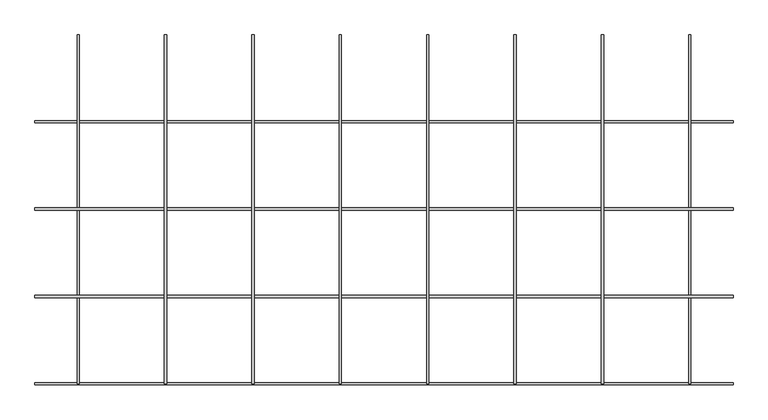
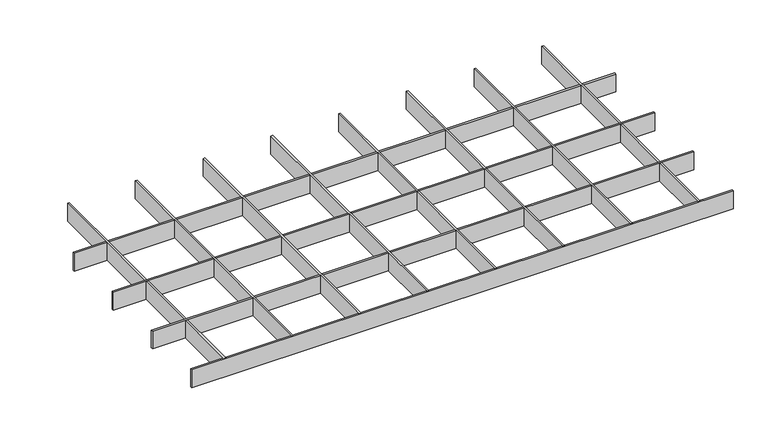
"""IFC4 building model written with IfcOpenShell, lengths in millimetres: proxy geometry, durlum_GEO_panel : durlum_GEO_4."""

import ifcopenshell
import ifcopenshell.guid

model = None  # the IFC model being written
_history = None  # IfcOwnerHistory: only IFC2X3 demands one
_inside = {}  # id of a spatial element -> (the spatial element, [elements in it])
_under = {}  # id of a project, library or spatial element -> (it, [spatial elements below it])
_declared = {}  # id of a project -> (the project, [libraries it declares])
_typed = {}  # id of a type object -> (the type object, [elements of that type])
_made_of = {}  # id of a material, layer set ... -> (it, [elements and type objects made of it])


def new_model(schema):
    """Start an empty IFC model of exactly this schema.

    Asked for "IFC4X3", IfcOpenShell would pick the latest addendum, in which some entities
    have other attributes; the version numbers below select the first issue.
    IFC2X3 requires an IfcOwnerHistory on every rooted entity: one is made here for all.
    """
    global model, _history
    if schema == "IFC4X3":
        model = ifcopenshell.file(schema_version=(4, 3, 0, 0))
    else:
        model = ifcopenshell.file(schema=schema)
    _inside.clear()
    _under.clear()
    _declared.clear()
    _typed.clear()
    _made_of.clear()
    _history = None
    if model.schema == "IFC2X3":
        org = make("IfcOrganization", Name="unknown")
        user = make(
            "IfcPersonAndOrganization",
            ThePerson=make("IfcPerson", FamilyName="unknown"),
            TheOrganization=org,
        )
        app = make(
            "IfcApplication",
            ApplicationDeveloper=org,
            Version="unknown",
            ApplicationFullName="unknown",
            ApplicationIdentifier="unknown",
        )
        _history = make(
            "IfcOwnerHistory",
            OwningUser=user,
            OwningApplication=app,
            ChangeAction="ADDED",
            CreationDate=0,
        )
    return model


def make(cls, **values):
    """One entity of the class cls with the attributes given. An attribute that is None is left unset."""
    return model.create_entity(
        cls, **{name: value for name, value in values.items() if value is not None}
    )


def rooted(cls, **values):
    """An entity with a GlobalId (a new one), such as an element, a storey or a relation."""
    return make(cls, GlobalId=ifcopenshell.guid.new(), OwnerHistory=_history, **values)


def si_unit(unit_type, name, prefix=None):
    """IfcSIUnit, for example si_unit("LENGTHUNIT", "METRE", prefix="MILLI")."""
    return make("IfcSIUnit", UnitType=unit_type, Prefix=prefix, Name=name)


def assignment(units):
    """IfcUnitAssignment: the units of a project."""
    return None if units is None else make("IfcUnitAssignment", Units=units)


def point(xyz):
    """IfcCartesianPoint."""
    return None if xyz is None else make("IfcCartesianPoint", Coordinates=xyz)


def direction(xyz):
    """IfcDirection."""
    return None if xyz is None else make("IfcDirection", DirectionRatios=xyz)


def frame(location, z_axis=None, x_axis=None):
    """IfcAxis2Placement3D, a coordinate frame: its origin and axes. An axis left out is left unset."""
    return make(
        "IfcAxis2Placement3D",
        Location=point(location),
        Axis=direction(z_axis),
        RefDirection=direction(x_axis),
    )


def origin():
    """The frame at (0, 0, 0) with its axes left unset."""
    return frame((0.0, 0.0, 0.0))


def origin_with_axes():
    """The frame at (0, 0, 0) with the z axis (0, 0, 1) and the x axis (1, 0, 0) written out."""
    return frame((0.0, 0.0, 0.0), z_axis=(0.0, 0.0, 1.0), x_axis=(1.0, 0.0, 0.0))


def place(relative_to, where):
    """IfcLocalPlacement: puts the frame where relative to a parent placement (None: the world)."""
    return make(
        "IfcLocalPlacement", PlacementRelTo=relative_to, RelativePlacement=where
    )


def context(
    kind, dimensions, precision=None, world=None, true_north=None, identifier=None
):
    """IfcGeometricRepresentationContext, for example the 3D "Model" context."""
    return make(
        "IfcGeometricRepresentationContext",
        ContextIdentifier=identifier,
        ContextType=kind,
        CoordinateSpaceDimension=dimensions,
        Precision=precision,
        WorldCoordinateSystem=world,
        TrueNorth=true_north,
    )


def project(units=None, contexts=None):
    """IfcProject with its units and contexts."""
    return rooted(
        "IfcProject",
        Name="project",
        RepresentationContexts=contexts,
        UnitsInContext=assignment(units),
    )


def spatial(cls, under=None, at=None, **own):
    """A site, building, storey or space (cls), placed at a placement, below another one or the project."""
    s = rooted(cls, ObjectPlacement=at, **own)
    if under is not None:
        _under.setdefault(under.id(), (under, []))[1].append(s)
    return s


def polyline(points):
    """IfcPolyline through the points."""
    return make("IfcPolyline", Points=[point(p) for p in points])


def outline(outer, holes=None, kind="AREA"):
    """IfcArbitraryClosedProfileDef: a profile drawn as a closed curve; with holes, ...WithVoids."""
    if holes is None:
        return make("IfcArbitraryClosedProfileDef", ProfileType=kind, OuterCurve=outer)
    return make(
        "IfcArbitraryProfileDefWithVoids",
        ProfileType=kind,
        OuterCurve=outer,
        InnerCurves=holes,
    )


def extrude(swept, where, along, depth):
    """IfcExtrudedAreaSolid: the profile swept, set in the frame where, extruded along a direction by depth."""
    return make(
        "IfcExtrudedAreaSolid",
        SweptArea=swept,
        Position=where,
        ExtrudedDirection=direction(along),
        Depth=depth,
    )


def shape(context_of_items, identifier, shape_type, items):
    """IfcShapeRepresentation: the items that make up one representation, for example the "Body"."""
    return make(
        "IfcShapeRepresentation",
        ContextOfItems=context_of_items,
        RepresentationIdentifier=identifier,
        RepresentationType=shape_type,
        Items=items,
    )


def source(mapping_origin, context_of_items, identifier, shape_type, items):
    """IfcRepresentationMap: a shape defined once, which mapped items show again and again."""
    return make(
        "IfcRepresentationMap",
        MappingOrigin=mapping_origin,
        MappedRepresentation=shape(context_of_items, identifier, shape_type, items),
    )


def transform(
    local_origin,
    x_axis=None,
    y_axis=None,
    z_axis=None,
    scale=None,
    scale2=None,
    scale3=None,
    uniform=True,
):
    """IfcCartesianTransformationOperator3D, or its non-uniform kind. x_axis, y_axis, z_axis: its Axis1, 2, 3."""
    if uniform:
        return make(
            "IfcCartesianTransformationOperator3D",
            Axis1=direction(x_axis),
            Axis2=direction(y_axis),
            LocalOrigin=point(local_origin),
            Scale=scale,
            Axis3=direction(z_axis),
        )
    return make(
        "IfcCartesianTransformationOperator3DnonUniform",
        Axis1=direction(x_axis),
        Axis2=direction(y_axis),
        LocalOrigin=point(local_origin),
        Scale=scale,
        Axis3=direction(z_axis),
        Scale2=scale2,
        Scale3=scale3,
    )


def mapped(mapping_source, mapping_target):
    """IfcMappedItem: shows the shape of a source again, moved by a transform."""
    return make(
        "IfcMappedItem", MappingSource=mapping_source, MappingTarget=mapping_target
    )


def made_of(thing, what):
    """Note that an element or type object is made of a material, layer set ...; save() writes the relation."""
    if what is not None:
        _made_of.setdefault(what.id(), (what, []))[1].append(thing)
    return thing


def element(
    cls,
    number,
    at=None,
    inside=None,
    cuts=None,
    type_object=None,
    material=None,
    context=None,
    identifier="Body",
    shape_type=None,
    held_by="IfcProductDefinitionShape",
    body=None,
    shapes=None,
    **own,
):
    """One element of the class cls, such as IfcWall. Its Tag is "e" and its number.

    at: its placement. inside: the storey or other place that contains it. cuts: it is an
    opening in that element (IfcRelVoidsElement). A single representation is given by context,
    identifier, shape_type and body (its items); several are given by shapes. held_by: the class
    of the entity that holds the representations. save() writes the other relations.
    """
    e = rooted(cls, Tag="e%d" % number, ObjectPlacement=at, **own)
    if body is not None:
        shapes = [shape(context, identifier, shape_type, body)]
    if shapes is not None:
        e.Representation = make(held_by, Representations=shapes)
    if inside is not None:
        _inside.setdefault(inside.id(), (inside, []))[1].append(e)
    if cuts is not None:
        rooted(
            "IfcRelVoidsElement", RelatingBuildingElement=cuts, RelatedOpeningElement=e
        )
    if type_object is not None:
        _typed.setdefault(type_object.id(), (type_object, []))[1].append(e)
    return made_of(e, material)


def aggregate(whole, parts):
    """IfcRelAggregates: a whole, such as a stair, and the parts it consists of."""
    return rooted("IfcRelAggregates", RelatingObject=whole, RelatedObjects=parts)


def save(model, path):
    """Write the relations noted so far, then the file.

    IfcRelAggregates (storeys below a building ...), IfcRelContainedInSpatialStructure (elements
    in a storey), IfcRelDefinesByType, IfcRelAssociatesMaterial and IfcRelDeclares: one each for
    every whole, place, type object, material and project.
    """
    for whole, parts in _under.values():
        aggregate(whole, parts)
    for where, things in _inside.values():
        rooted(
            "IfcRelContainedInSpatialStructure",
            RelatedElements=things,
            RelatingStructure=where,
        )
    for kind, things in _typed.values():
        rooted("IfcRelDefinesByType", RelatedObjects=things, RelatingType=kind)
    for what, things in _made_of.values():
        rooted("IfcRelAssociatesMaterial", RelatedObjects=things, RelatingMaterial=what)
    for by, libraries in _declared.values():
        rooted("IfcRelDeclares", RelatingContext=by, RelatedDefinitions=libraries)
    model.write(path)


def generic_models_5e62fee5(model_context):
    return source(origin(), model_context, "Body", "SweptSolid", [
        extrude(outline(polyline([(373.0, 299.5), (377.0, 299.5), (377.0, -299.5), (373.0, -299.5), (373.0, 299.5)])), origin_with_axes(), (0.0, 0.0, 1.0), 42.0),
        extrude(outline(polyline([(223.0, 299.5), (227.0, 299.5), (227.0, -299.5), (223.0, -299.5), (223.0, 299.5)])), origin_with_axes(), (0.0, 0.0, 1.0), 42.0),
        extrude(outline(polyline([(73.0, 299.5), (77.0, 299.5), (77.0, -299.5), (73.0, -299.5), (73.0, 299.5)])), origin_with_axes(), (0.0, 0.0, 1.0), 42.0),
        extrude(outline(polyline([(-77.0, 299.5), (-73.0, 299.5), (-73.0, -299.5), (-77.0, -299.5), (-77.0, 299.5)])), origin_with_axes(), (0.0, 0.0, 1.0), 42.0),
        extrude(outline(polyline([(-227.0, 299.5), (-223.0, 299.5), (-223.0, -299.5), (-227.0, -299.5), (-227.0, 299.5)])), origin_with_axes(), (0.0, 0.0, 1.0), 42.0),
        extrude(outline(polyline([(-377.0, 299.5), (-373.0, 299.5), (-373.0, -299.5), (-377.0, -299.5), (-377.0, 299.5)])), origin_with_axes(), (0.0, 0.0, 1.0), 42.0),
        extrude(outline(polyline([(599.5, -147.5), (599.5, -151.5), (-599.5, -151.5), (-599.5, -147.5), (599.5, -147.5)])), origin_with_axes(), (0.0, 0.0, 1.0), 42.0),
        extrude(outline(polyline([(599.5, 2.5), (599.5, -1.5), (-599.5, -1.5), (-599.5, 2.5), (599.5, 2.5)])), origin_with_axes(), (0.0, 0.0, 1.0), 42.0),
        extrude(outline(polyline([(523.0, 299.5), (527.0, 299.5), (527.0, -299.5), (523.0, -299.5), (523.0, 299.5)])), origin_with_axes(), (0.0, 0.0, 1.0), 42.0),
        extrude(outline(polyline([(-527.0, 299.5), (-523.0, 299.5), (-523.0, -299.5), (-527.0, -299.5), (-527.0, 299.5)])), origin_with_axes(), (0.0, 0.0, 1.0), 42.0),
        extrude(outline(polyline([(599.5, -297.5), (599.5, -301.5), (-599.5, -301.5), (-599.5, -297.5), (599.5, -297.5)])), origin_with_axes(), (0.0, 0.0, 1.0), 42.0),
        extrude(outline(polyline([(599.5, 152.5), (599.5, 148.5), (-599.5, 148.5), (-599.5, 152.5), (599.5, 152.5)])), origin_with_axes(), (0.0, 0.0, 1.0), 42.0),
    ])


if __name__ == "__main__":
    model = new_model("IFC4")
    model_context = context("Model", 3, world=origin())
    ifc_project = project(units=[si_unit("LENGTHUNIT", "METRE", prefix="MILLI")], contexts=[model_context])
    site = spatial("IfcSite", under=ifc_project)
    building = spatial("IfcBuilding", under=site)
    placement = place(None, origin())
    generic_models_shape = generic_models_5e62fee5(model_context)
    element("IfcBuildingElementProxy", 1, Name="durlum_GEO_panel : durlum_GEO_4", ObjectType="durlum_GEO_panel : durlum_GEO_4", at=placement, inside=building, context=model_context, shape_type="MappedRepresentation", body=[
        mapped(generic_models_shape, transform((0.0, 0.0, 0.0), x_axis=(1.0, 0.0, 0.0), y_axis=(0.0, 1.0, 0.0), z_axis=(0.0, 0.0, 1.0))),
    ])
    save(model, "model.ifc")
